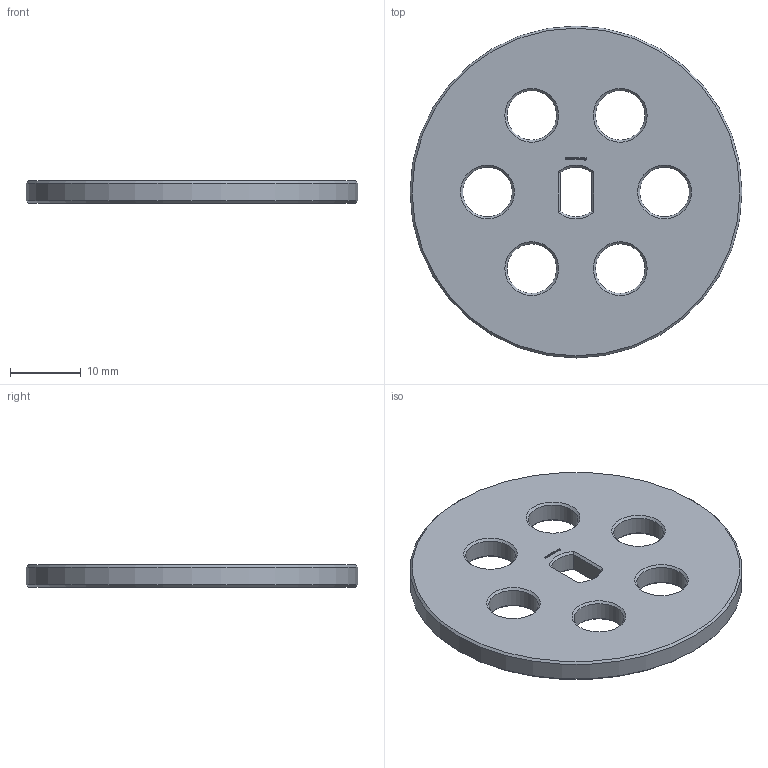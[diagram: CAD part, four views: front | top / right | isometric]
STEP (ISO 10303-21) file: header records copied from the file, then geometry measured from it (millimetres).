
FILE_DESCRIPTION(/* description */ (''),/* implementation_level */ '2;1');
FILE_NAME(/* name */ '/Users/paulokiefe/Desktop/STEMFIE/Fasteners/Washers/Fixed/Washer WSR FXD BU0.25x3.75 - SPN-WSR-0012 v1.step',/* time_stamp */ '2020-09-27T23:16:13+02:00',/* author */ (''),/* organization */ (''),/* preprocessor_version */ 'ST-DEVELOPER v18.1',/* originating_system */ 'Autodesk Translation Framework v9.3.0.1241',/* authorisation */ '');
FILE_SCHEMA (('AUTOMOTIVE_DESIGN { 1 0 10303 214 3 1 1 }'));
Length unit declared in the file: millimetre
Products named in the file (1): Washer WSR FXD BU0.25x3.75 - SPN-WSR-0012
Bounding box: 46.88 x 46.88 x 3.12 mm (x, y, z)
Volume: 4554.5 mm3; surface area: 3765.4 mm2
Topology: 1 solids, 1 shells, 279 faces, 773 edges, 508 vertices
Faces by surface type: plane 252, cone 18, cylinder 9
Full cylindrical faces by diameter (mm): 7 x6, 46.875 x1
Entity records: 8796 total; most frequent: CARTESIAN_POINT 1585, ORIENTED_EDGE 1546, DIRECTION 1361, EDGE_CURVE 773, LINE 729, VECTOR 729, VERTEX_POINT 508, AXIS2_PLACEMENT_3D 316
